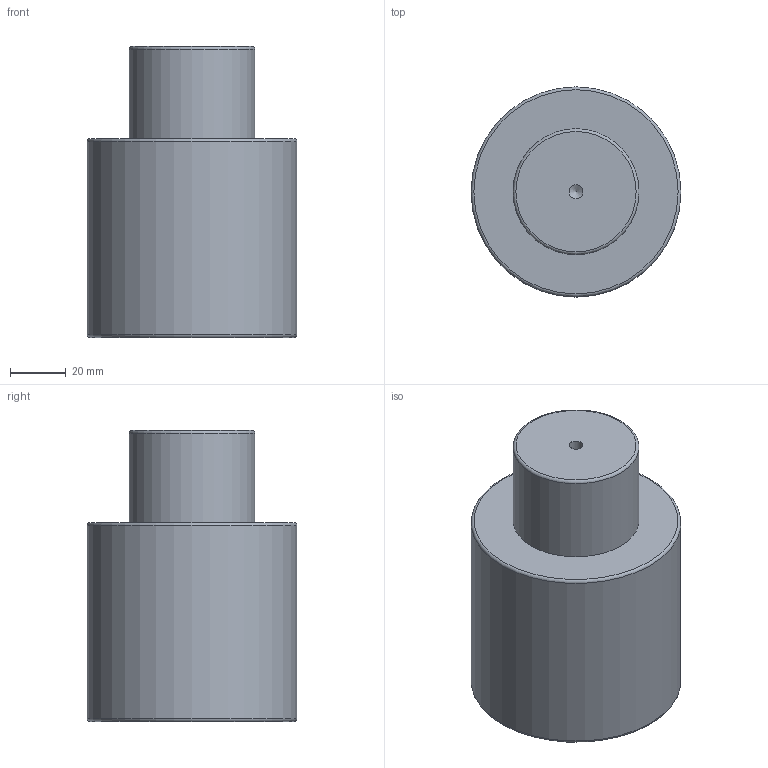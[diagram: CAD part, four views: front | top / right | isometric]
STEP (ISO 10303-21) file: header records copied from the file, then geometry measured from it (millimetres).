
FILE_DESCRIPTION(/* description */ (''),/* implementation_level */ '2;1');
FILE_NAME(/* name */ 'NV5-SMLX.75x32.stp',/* time_stamp */ '2018-08-31T16:08:29+02:00',/* author */ (''),/* organization */ (''),/* preprocessor_version */ 'ST-DEVELOPER v16',/* originating_system */ 'SIEMENS PLM Software NX 10.0',/* authorisation */ '');
FILE_SCHEMA (('AUTOMOTIVE_DESIGN { 1 0 10303 214 3 1 1 1 }'));
Length unit declared in the file: millimetre
Products named in the file (1): NV5-SMLX.75x32
Bounding box: 75 x 75 x 104 mm (x, y, z)
Volume: 364043.8 mm3; surface area: 30802.8 mm2
Topology: 1 solids, 1 shells, 12 faces, 24 edges, 15 vertices
Faces by surface type: cylinder 4, torus 3, plane 3, cone 2
Full cylindrical faces by diameter (mm): 5 x1, 10.3 x1, 45 x1, 75 x1
Entity records: 266 total; most frequent: DIRECTION 48, CARTESIAN_POINT 37, FACE_BOUND 24, AXIS2_PLACEMENT_3D 24, EDGE_LOOP 22, ORIENTED_EDGE 22, VERTEX_POINT 13, ADVANCED_FACE 12
